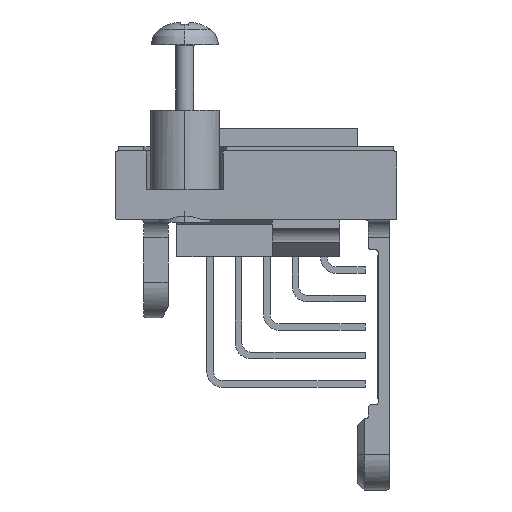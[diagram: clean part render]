
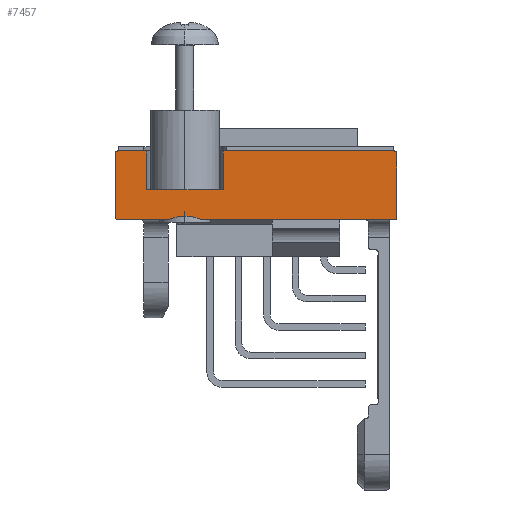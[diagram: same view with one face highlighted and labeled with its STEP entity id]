
A CAD part, front view. The second image highlights one B-rep face of the part: STEP entity #7457.
In plain terms, the highlighted planar face has unit normal (0, -1, 0).
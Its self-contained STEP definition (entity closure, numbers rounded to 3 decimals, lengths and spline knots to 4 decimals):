
#375=DIRECTION('',(1.,0.,0.));
#376=VECTOR('',#375,0.1765);
#377=CARTESIAN_POINT('',(-0.09,-0.365,0.1));
#378=LINE('',#377,#376);
#389=DIRECTION('',(1.,0.,0.));
#390=VECTOR('',#389,0.6865);
#391=CARTESIAN_POINT('',(0.2035,-0.365,0.1));
#392=LINE('',#391,#390);
#619=DIRECTION('',(1.,0.,0.));
#620=VECTOR('',#619,0.6);
#621=CARTESIAN_POINT('',(0.28,-0.365,0.342));
#622=LINE('',#621,#620);
#636=DIRECTION('',(1.,0.,0.));
#637=VECTOR('',#636,0.1);
#638=CARTESIAN_POINT('',(-0.09,-0.365,0.342));
#639=LINE('',#638,#637);
#803=DIRECTION('',(1.,0.,0.));
#804=VECTOR('',#803,0.044);
#805=CARTESIAN_POINT('',(0.123,-0.365,0.205));
#806=LINE('',#805,#804);
#807=DIRECTION('',(0.,0.,1.));
#808=VECTOR('',#807,0.137);
#809=CARTESIAN_POINT('',(0.28,-0.365,0.205));
#810=LINE('',#809,#808);
#811=CARTESIAN_POINT('',(0.88,-0.365,0.332));
#812=DIRECTION('',(0.,-1.,0.));
#813=DIRECTION('',(1.,0.,0.));
#814=AXIS2_PLACEMENT_3D('',#811,#812,#813);
#816=CARTESIAN_POINT('',(0.2035,-0.365,0.1));
#817=CARTESIAN_POINT('',(0.2019,-0.365,
0.1007));
#818=CARTESIAN_POINT('',(0.1986,-0.365,
0.1021));
#819=CARTESIAN_POINT('',(0.1937,-0.365,
0.104));
#820=CARTESIAN_POINT('',(0.1887,-0.365,
0.1058));
#821=CARTESIAN_POINT('',(0.1838,-0.365,
0.1074));
#822=CARTESIAN_POINT('',(0.1789,-0.365,
0.1088));
#823=CARTESIAN_POINT('',(0.174,-0.365,
0.1101));
#824=CARTESIAN_POINT('',(0.1691,-0.365,
0.1111));
#825=CARTESIAN_POINT('',(0.1642,-0.365,
0.112));
#826=CARTESIAN_POINT('',(0.1593,-0.365,
0.1127));
#827=CARTESIAN_POINT('',(0.1545,-0.365,
0.1132));
#828=CARTESIAN_POINT('',(0.1497,-0.365,
0.1134));
#829=CARTESIAN_POINT('',(0.1465,-0.365,0.1135));
#830=CARTESIAN_POINT('',(0.145,-0.365,0.1135));
#832=CARTESIAN_POINT('',(0.145,-0.365,0.1135));
#833=CARTESIAN_POINT('',(0.1434,-0.365,0.1135));
#834=CARTESIAN_POINT('',(0.1402,-0.365,
0.1134));
#835=CARTESIAN_POINT('',(0.1354,-0.365,
0.1131));
#836=CARTESIAN_POINT('',(0.1306,-0.365,
0.1127));
#837=CARTESIAN_POINT('',(0.1257,-0.365,
0.112));
#838=CARTESIAN_POINT('',(0.1208,-0.365,
0.1111));
#839=CARTESIAN_POINT('',(0.1159,-0.365,
0.11));
#840=CARTESIAN_POINT('',(0.111,-0.365,
0.1088));
#841=CARTESIAN_POINT('',(0.106,-0.365,
0.1074));
#842=CARTESIAN_POINT('',(0.1011,-0.365,
0.1058));
#843=CARTESIAN_POINT('',(0.0962,-0.365,
0.104));
#844=CARTESIAN_POINT('',(0.0913,-0.365,
0.1021));
#845=CARTESIAN_POINT('',(0.0881,-0.365,
0.1007));
#846=CARTESIAN_POINT('',(0.0865,-0.365,0.1));
#848=CARTESIAN_POINT('',(-0.09,-0.365,0.11));
#849=DIRECTION('',(0.,-1.,0.));
#850=DIRECTION('',(-1.,0.,0.));
#851=AXIS2_PLACEMENT_3D('',#848,#849,#850);
#853=DIRECTION('',(0.,0.,1.));
#854=VECTOR('',#853,0.222);
#855=CARTESIAN_POINT('',(-0.1,-0.365,0.11));
#856=LINE('',#855,#854);
#857=CARTESIAN_POINT('',(-0.09,-0.365,0.332));
#858=DIRECTION('',(0.,-1.,0.));
#859=DIRECTION('',(0.,0.,1.));
#860=AXIS2_PLACEMENT_3D('',#857,#858,#859);
#895=DIRECTION('',(1.,0.,0.));
#896=VECTOR('',#895,0.113);
#897=CARTESIAN_POINT('',(0.01,-0.365,0.205));
#898=LINE('',#897,#896);
#907=DIRECTION('',(1.,0.,0.));
#908=VECTOR('',#907,0.113);
#909=CARTESIAN_POINT('',(0.167,-0.365,0.205));
#910=LINE('',#909,#908);
#1082=DIRECTION('',(0.,0.,1.));
#1083=VECTOR('',#1082,0.137);
#1084=CARTESIAN_POINT('',(0.01,-0.365,0.205));
#1085=LINE('',#1084,#1083);
#1107=DIRECTION('',(0.,0.,1.));
#1108=VECTOR('',#1107,0.232);
#1109=CARTESIAN_POINT('',(0.89,-0.365,0.1));
#1110=LINE('',#1109,#1108);
#5619=CARTESIAN_POINT('',(0.89,-0.365,0.1));
#5621=VERTEX_POINT('',#5619);
#5664=VERTEX_POINT('',#832);
#5665=VERTEX_POINT('',#846);
#5672=VERTEX_POINT('',#816);
#5762=CARTESIAN_POINT('',(0.28,-0.365,0.342));
#5764=VERTEX_POINT('',#5762);
#5769=CARTESIAN_POINT('',(0.28,-0.365,0.205));
#5771=VERTEX_POINT('',#5769);
#5927=CARTESIAN_POINT('',(-0.1,-0.365,0.11));
#5928=VERTEX_POINT('',#5927);
#5929=CARTESIAN_POINT('',(-0.09,-0.365,0.1));
#5930=VERTEX_POINT('',#5929);
#5932=CARTESIAN_POINT('',(-0.1,-0.365,0.332));
#5934=VERTEX_POINT('',#5932);
#5939=CARTESIAN_POINT('',(0.89,-0.365,0.332));
#5940=VERTEX_POINT('',#5939);
#5941=CARTESIAN_POINT('',(0.88,-0.365,0.342));
#5942=VERTEX_POINT('',#5941);
#6004=CARTESIAN_POINT('',(0.01,-0.365,0.342));
#6006=VERTEX_POINT('',#6004);
#6012=CARTESIAN_POINT('',(0.01,-0.365,0.205));
#6014=VERTEX_POINT('',#6012);
#6016=CARTESIAN_POINT('',(-0.09,-0.365,0.342));
#6017=VERTEX_POINT('',#6016);
#6063=CARTESIAN_POINT('',(0.167,-0.365,0.205));
#6065=VERTEX_POINT('',#6063);
#6066=CARTESIAN_POINT('',(0.123,-0.365,0.205));
#6067=VERTEX_POINT('',#6066);
#7426=CARTESIAN_POINT('',(-0.1,-0.365,0.1));
#7427=DIRECTION('',(0.,-1.,0.));
#7428=DIRECTION('',(1.,0.,0.));
#7429=AXIS2_PLACEMENT_3D('',#7426,#7427,#7428);
#7430=PLANE('',#7429);
#7432=ORIENTED_EDGE('',*,*,#7431,.T.);
#7434=ORIENTED_EDGE('',*,*,#7433,.T.);
#7436=ORIENTED_EDGE('',*,*,#7435,.T.);
#7437=ORIENTED_EDGE('',*,*,#7161,.T.);
#7438=ORIENTED_EDGE('',*,*,#6496,.F.);
#7440=ORIENTED_EDGE('',*,*,#7439,.F.);
#7441=ORIENTED_EDGE('',*,*,#6936,.F.);
#7443=ORIENTED_EDGE('',*,*,#7442,.T.);
#7445=ORIENTED_EDGE('',*,*,#7444,.T.);
#7446=ORIENTED_EDGE('',*,*,#6930,.F.);
#7447=ORIENTED_EDGE('',*,*,#7023,.F.);
#7448=ORIENTED_EDGE('',*,*,#7038,.T.);
#7449=ORIENTED_EDGE('',*,*,#7052,.F.);
#7450=ORIENTED_EDGE('',*,*,#7169,.T.);
#7452=ORIENTED_EDGE('',*,*,#7451,.F.);
#7454=ORIENTED_EDGE('',*,*,#7453,.T.);
#7455=EDGE_LOOP('',(#7432,#7434,#7436,#7437,#7438,#7440,#7441,#7443,#7445,#7446,
#7447,#7448,#7449,#7450,#7452,#7454));
#7456=FACE_OUTER_BOUND('',#7455,.F.);
#7457=ADVANCED_FACE('',(#7456),#7430,.T.);
#815=CIRCLE('',#814,0.01);
#831=B_SPLINE_CURVE_WITH_KNOTS('',3,(#816,#817,#818,#819,#820,#821,#822,#823,
#824,#825,#826,#827,#828,#829,#830),.UNSPECIFIED.,.F.,.F.,(4,1,1,1,1,1,1,1,1,1,
1,1,4),(0.,0.0833,0.1667,0.25,0.3333,
0.4167,0.5,0.5833,0.6667,0.75,
0.8333,0.9167,1.),.UNSPECIFIED.);
#847=B_SPLINE_CURVE_WITH_KNOTS('',3,(#832,#833,#834,#835,#836,#837,#838,#839,
#840,#841,#842,#843,#844,#845,#846),.UNSPECIFIED.,.F.,.F.,(4,1,1,1,1,1,1,1,1,1,
1,1,4),(0.,0.0833,0.1667,0.25,0.3333,
0.4167,0.5,0.5833,0.6667,0.75,
0.8333,0.9167,1.),.UNSPECIFIED.);
#852=CIRCLE('',#851,0.01);
#861=CIRCLE('',#860,0.01);
#6496=EDGE_CURVE('',#5940,#5942,#815,.T.);
#6930=EDGE_CURVE('',#5930,#5665,#378,.T.);
#6936=EDGE_CURVE('',#5672,#5621,#392,.T.);
#7023=EDGE_CURVE('',#5928,#5930,#852,.T.);
#7038=EDGE_CURVE('',#5928,#5934,#856,.T.);
#7052=EDGE_CURVE('',#6017,#5934,#861,.T.);
#7161=EDGE_CURVE('',#5764,#5942,#622,.T.);
#7169=EDGE_CURVE('',#6017,#6006,#639,.T.);
#7431=EDGE_CURVE('',#6067,#6065,#806,.T.);
#7433=EDGE_CURVE('',#6065,#5771,#910,.T.);
#7435=EDGE_CURVE('',#5771,#5764,#810,.T.);
#7439=EDGE_CURVE('',#5621,#5940,#1110,.T.);
#7442=EDGE_CURVE('',#5672,#5664,#831,.T.);
#7444=EDGE_CURVE('',#5664,#5665,#847,.T.);
#7451=EDGE_CURVE('',#6014,#6006,#1085,.T.);
#7453=EDGE_CURVE('',#6014,#6067,#898,.T.);
